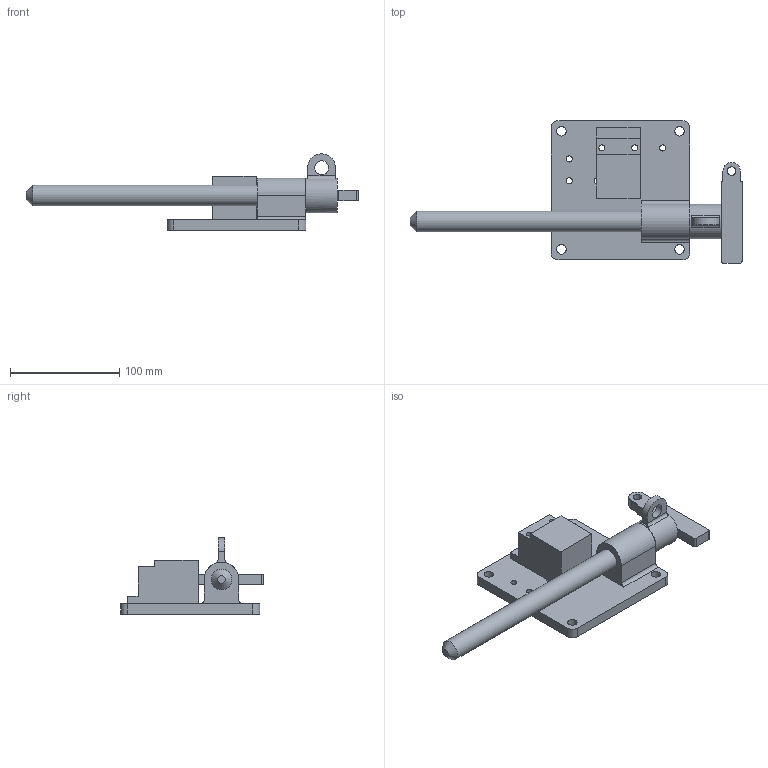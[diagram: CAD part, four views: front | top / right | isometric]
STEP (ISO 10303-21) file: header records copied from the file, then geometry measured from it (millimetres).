
FILE_DESCRIPTION(/* description */ (''),/* implementation_level */ '2;1');
FILE_NAME(/* name */ 'C:\Users\rcarver\Desktop\Tru-LOK pin\Ford-FCA\With Switch\SP19Y250TY00201.stp',/* time_stamp */ '2016-06-21T11:13:26-04:00',/* author */ ('rcarver'),/* organization */ (''),/* preprocessor_version */ 'ST-DEVELOPER v16.5',/* originating_system */ 'Autodesk Inventor 2017',/* authorisation */ '');
FILE_SCHEMA (('AUTOMOTIVE_DESIGN { 1 0 10303 214 3 1 1 }'));
Length unit declared in the file: millimetre
Products named in the file (1): SP19Y250TY00201
Bounding box: 303.62 x 130.18 x 69.85 mm (x, y, z)
Volume: 383860.3 mm3; surface area: 79831.3 mm2
Topology: 3 solids, 3 shells, 69 faces, 192 edges, 131 vertices
Faces by surface type: plane 37, cylinder 31, cone 1
Full cylindrical faces by diameter (mm): 5.588 x2, 5.59 x6, 7.94 x1, 8.74 x4, 12.7 x1, 19 x1, 31.75 x1
Entity records: 2196 total; most frequent: DIRECTION 368, CARTESIAN_POINT 346, ORIENTED_EDGE 320, EDGE_CURVE 160, AXIS2_PLACEMENT_3D 138, EDGE_LOOP 116, VERTEX_POINT 116, LINE 92
